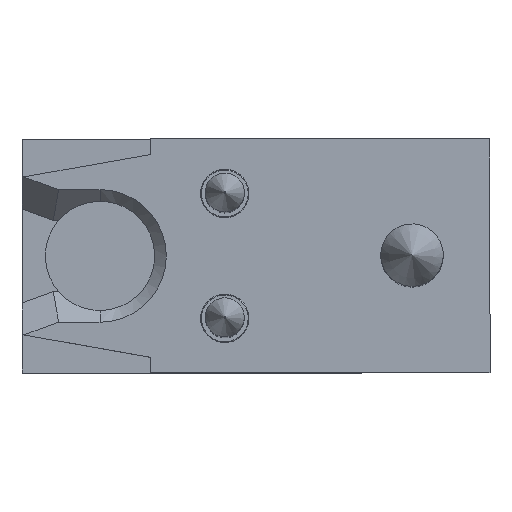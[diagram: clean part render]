
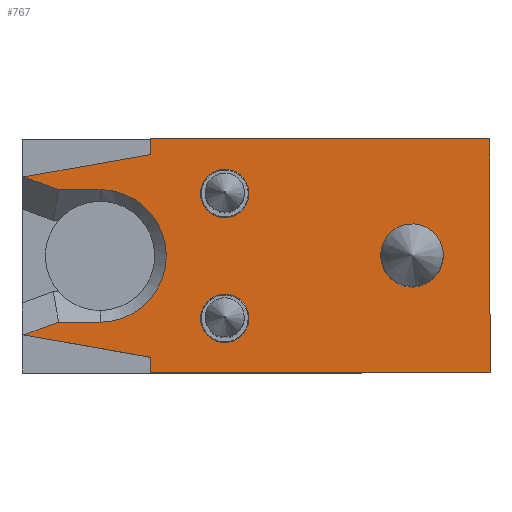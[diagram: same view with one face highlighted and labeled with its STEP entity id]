
A CAD part, top view. The second image highlights one B-rep face of the part: STEP entity #767.
In plain terms, the highlighted planar face has unit normal (0, 0, 1) as drawn and (0, 0, -1) by its records, which use the part's own axes.
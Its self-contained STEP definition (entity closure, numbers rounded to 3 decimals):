
#89=CIRCLE('',#884,3.1);
#90=CIRCLE('',#885,3.1);
#91=CIRCLE('',#886,4.);
#92=CIRCLE('',#887,8.5);
#130=ORIENTED_EDGE('',*,*,#304,.T.);
#131=ORIENTED_EDGE('',*,*,#305,.T.);
#132=ORIENTED_EDGE('',*,*,#306,.T.);
#133=ORIENTED_EDGE('',*,*,#307,.F.);
#134=ORIENTED_EDGE('',*,*,#308,.T.);
#135=ORIENTED_EDGE('',*,*,#309,.T.);
#136=ORIENTED_EDGE('',*,*,#310,.T.);
#137=ORIENTED_EDGE('',*,*,#311,.T.);
#138=ORIENTED_EDGE('',*,*,#312,.T.);
#139=ORIENTED_EDGE('',*,*,#313,.T.);
#140=ORIENTED_EDGE('',*,*,#314,.T.);
#141=ORIENTED_EDGE('',*,*,#315,.F.);
#142=ORIENTED_EDGE('',*,*,#316,.F.);
#143=ORIENTED_EDGE('',*,*,#317,.F.);
#144=ORIENTED_EDGE('',*,*,#318,.F.);
#304=EDGE_CURVE('',#391,#391,#89,.T.);
#305=EDGE_CURVE('',#392,#392,#90,.T.);
#306=EDGE_CURVE('',#393,#393,#91,.T.);
#307=EDGE_CURVE('',#394,#395,#461,.T.);
#308=EDGE_CURVE('',#394,#396,#462,.T.);
#309=EDGE_CURVE('',#396,#397,#463,.T.);
#310=EDGE_CURVE('',#397,#398,#464,.T.);
#311=EDGE_CURVE('',#398,#399,#465,.T.);
#312=EDGE_CURVE('',#399,#400,#92,.T.);
#313=EDGE_CURVE('',#400,#401,#466,.T.);
#314=EDGE_CURVE('',#401,#402,#467,.T.);
#315=EDGE_CURVE('',#403,#402,#468,.T.);
#316=EDGE_CURVE('',#404,#403,#469,.T.);
#317=EDGE_CURVE('',#405,#404,#470,.T.);
#318=EDGE_CURVE('',#395,#405,#471,.T.);
#391=VERTEX_POINT('',#1249);
#392=VERTEX_POINT('',#1251);
#393=VERTEX_POINT('',#1253);
#394=VERTEX_POINT('',#1255);
#395=VERTEX_POINT('',#1256);
#396=VERTEX_POINT('',#1258);
#397=VERTEX_POINT('',#1260);
#398=VERTEX_POINT('',#1262);
#399=VERTEX_POINT('',#1264);
#400=VERTEX_POINT('',#1266);
#401=VERTEX_POINT('',#1268);
#402=VERTEX_POINT('',#1270);
#403=VERTEX_POINT('',#1272);
#404=VERTEX_POINT('',#1274);
#405=VERTEX_POINT('',#1276);
#461=LINE('',#1254,#511);
#462=LINE('',#1257,#512);
#463=LINE('',#1259,#513);
#464=LINE('',#1261,#514);
#465=LINE('',#1263,#515);
#466=LINE('',#1267,#516);
#467=LINE('',#1269,#517);
#468=LINE('',#1271,#518);
#469=LINE('',#1273,#519);
#470=LINE('',#1275,#520);
#471=LINE('',#1277,#521);
#511=VECTOR('',#999,1000.);
#512=VECTOR('',#1000,1000.);
#513=VECTOR('',#1001,1000.);
#514=VECTOR('',#1002,1000.);
#515=VECTOR('',#1003,1000.);
#516=VECTOR('',#1006,1000.);
#517=VECTOR('',#1007,1000.);
#518=VECTOR('',#1008,1000.);
#519=VECTOR('',#1009,1000.);
#520=VECTOR('',#1010,1000.);
#521=VECTOR('',#1011,1000.);
#558=EDGE_LOOP('',(#130));
#559=EDGE_LOOP('',(#131));
#560=EDGE_LOOP('',(#132));
#561=EDGE_LOOP('',(#133,#134,#135,#136,#137,#138,#139,#140,#141,#142,#143,
#144));
#647=FACE_BOUND('',#558,.T.);
#648=FACE_BOUND('',#559,.T.);
#649=FACE_BOUND('',#560,.T.);
#650=FACE_BOUND('',#561,.T.);
#738=PLANE('',#883);
#767=ADVANCED_FACE('',(#647,#648,#649,#650),#738,.F.);
#883=AXIS2_PLACEMENT_3D('',#1247,#991,#992);
#884=AXIS2_PLACEMENT_3D('',#1248,#993,#994);
#885=AXIS2_PLACEMENT_3D('',#1250,#995,#996);
#886=AXIS2_PLACEMENT_3D('',#1252,#997,#998);
#887=AXIS2_PLACEMENT_3D('',#1265,#1004,#1005);
#991=DIRECTION('',(0.,0.,1.));
#992=DIRECTION('',(1.,0.,0.));
#993=DIRECTION('',(0.,0.,1.));
#994=DIRECTION('',(1.,0.,0.));
#995=DIRECTION('',(0.,0.,1.));
#996=DIRECTION('',(1.,0.,0.));
#997=DIRECTION('',(0.,0.,1.));
#998=DIRECTION('',(1.,0.,0.));
#999=DIRECTION('',(-1.,0.,0.));
#1000=DIRECTION('',(0.,-1.,0.));
#1001=DIRECTION('',(0.985,-0.174,0.));
#1002=DIRECTION('',(-0.94,-0.342,0.));
#1003=DIRECTION('',(-1.,0.,0.));
#1004=DIRECTION('',(0.,0.,1.));
#1005=DIRECTION('',(1.,0.,0.));
#1006=DIRECTION('',(1.,0.,0.));
#1007=DIRECTION('',(0.94,-0.342,0.));
#1008=DIRECTION('',(0.985,0.174,0.));
#1009=DIRECTION('',(0.,1.,0.));
#1010=DIRECTION('',(1.,0.,0.));
#1011=DIRECTION('',(0.,-1.,0.));
#1247=CARTESIAN_POINT('',(-30.,15.,-5.));
#1248=CARTESIAN_POINT('',(4.,8.,-5.));
#1249=CARTESIAN_POINT('',(7.1,8.,-5.));
#1250=CARTESIAN_POINT('',(4.,-8.,-5.));
#1251=CARTESIAN_POINT('',(7.1,-8.,-5.));
#1252=CARTESIAN_POINT('',(-20.,0.,-5.));
#1253=CARTESIAN_POINT('',(-16.,0.,-5.));
#1254=CARTESIAN_POINT('',(30.,15.,-5.));
#1255=CARTESIAN_POINT('',(13.5,15.,-5.));
#1256=CARTESIAN_POINT('',(-30.,15.,-5.));
#1257=CARTESIAN_POINT('',(13.5,15.,-5.));
#1258=CARTESIAN_POINT('',(13.5,13.,-5.));
#1259=CARTESIAN_POINT('',(-29.03,20.499,-5.));
#1260=CARTESIAN_POINT('',(29.78,10.129,-5.));
#1261=CARTESIAN_POINT('',(24.649,8.262,-5.));
#1262=CARTESIAN_POINT('',(25.304,8.5,-5.));
#1263=CARTESIAN_POINT('',(20.,8.5,-5.));
#1264=CARTESIAN_POINT('',(20.,8.5,-5.));
#1265=CARTESIAN_POINT('',(20.,0.,-5.));
#1266=CARTESIAN_POINT('',(20.,-8.5,-5.));
#1267=CARTESIAN_POINT('',(26.,-8.5,-5.));
#1268=CARTESIAN_POINT('',(25.304,-8.5,-5.));
#1269=CARTESIAN_POINT('',(28.649,-9.718,-5.));
#1270=CARTESIAN_POINT('',(29.78,-10.129,-5.));
#1271=CARTESIAN_POINT('',(-23.9,-19.595,-5.));
#1272=CARTESIAN_POINT('',(13.5,-13.,-5.));
#1273=CARTESIAN_POINT('',(13.5,15.,-5.));
#1274=CARTESIAN_POINT('',(13.5,-15.,-5.));
#1275=CARTESIAN_POINT('',(-30.,-15.,-5.));
#1276=CARTESIAN_POINT('',(-30.,-15.,-5.));
#1277=CARTESIAN_POINT('',(-30.,15.,-5.));
